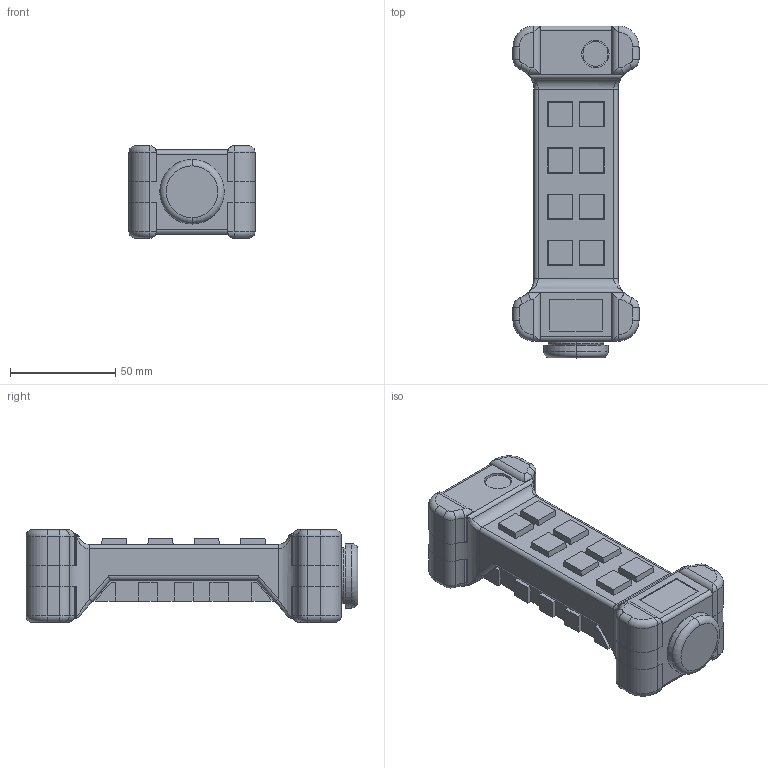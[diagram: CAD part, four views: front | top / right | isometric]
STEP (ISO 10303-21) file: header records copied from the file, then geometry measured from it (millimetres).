
FILE_DESCRIPTION (( 'STEP AP203' ), '1' );
FILE_NAME ('900.001.001.STEP', '2018-03-09T10:59:36', ( '' ), ( '' ), 'SwSTEP 2.0', 'SolidWorks 2016', '' );
FILE_SCHEMA (( 'CONFIG_CONTROL_DESIGN' ));
Length unit declared in the file: millimetre
Products named in the file (1): 900.001.001
Bounding box: 60 x 158 x 44 mm (x, y, z)
Volume: 231274.1 mm3; surface area: 45704 mm2
Topology: 18 solids, 18 shells, 338 faces, 806 edges, 508 vertices
Faces by surface type: plane 192, cylinder 106, torus 28, bspline 12
Entity records: 10379 total; most frequent: CARTESIAN_POINT 2585, ORIENTED_EDGE 1612, DIRECTION 1572, EDGE_CURVE 806, VECTOR 538, LINE 538, AXIS2_PLACEMENT_3D 517, VERTEX_POINT 508
